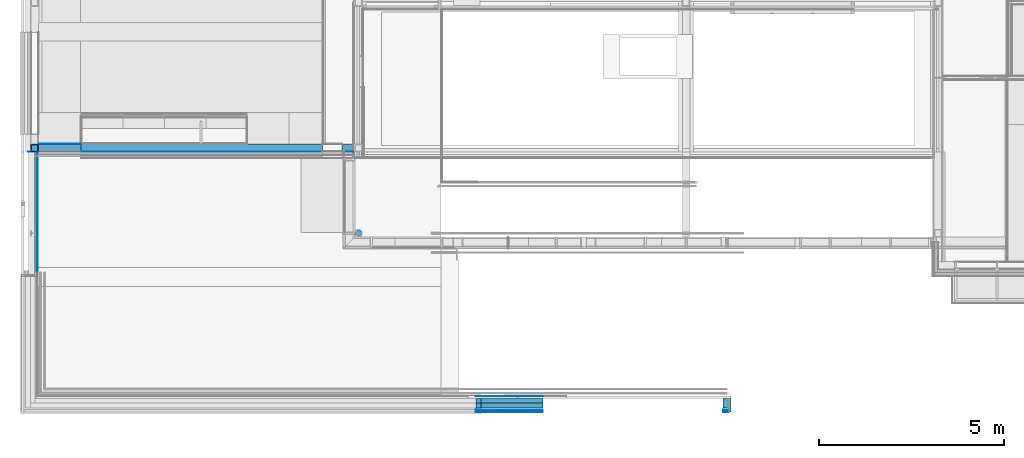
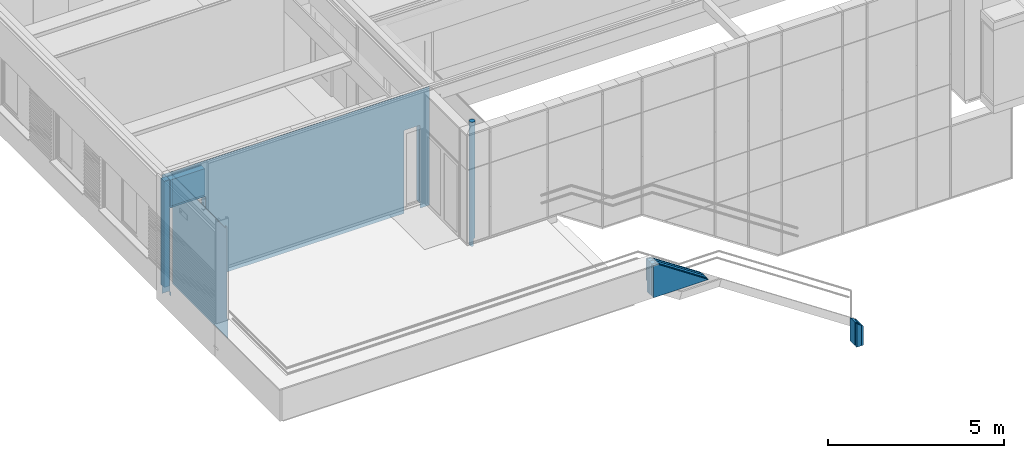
# One storey, part 54 of 137: 16 building element parts, 3 openings, 7 elements without a shape of their own.
"""IFC2X3 building model written with IfcOpenShell, lengths in millimetres."""

from ifc_helpers import new_model, entity, si_unit, converted_unit, derived_unit, money_unit, direction, frame, origin_with_axes, place, context, subcontext, project, spatial, faceted_brep, material, type_object, element, fill, aggregate, save


model = new_model("IFC2X3")

# Units and contexts
model_context = context("Model", 3, precision=0.01, world=origin_with_axes(), true_north=direction((0.0, 1.0)))
body_context = subcontext(model_context, "Body", "Model", "MODEL_VIEW")
ifc_project = project(units=[si_unit("LENGTHUNIT", "METRE", prefix="MILLI"), si_unit("AREAUNIT", "SQUARE_METRE"), si_unit("VOLUMEUNIT", "CUBIC_METRE"), converted_unit("PLANEANGLEUNIT", "DEGREE", entity("IfcPlaneAngleMeasure", 0.0174532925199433), si_unit("PLANEANGLEUNIT", "RADIAN"), dimensions=[0, 0, 0, 0, 0, 0, 0]), money_unit("EUR"), converted_unit("TIMEUNIT", "Year", entity("IfcTimeMeasure", 31556926.0), si_unit("TIMEUNIT", "SECOND"), dimensions=[0, 0, 1, 0, 0, 0, 0]), si_unit("MASSUNIT", "GRAM", prefix="KILO"), si_unit("THERMODYNAMICTEMPERATUREUNIT", "DEGREE_CELSIUS"), si_unit("LUMINOUSINTENSITYUNIT", "LUMEN"), si_unit("ENERGYUNIT", "JOULE", prefix="MEGA"), derived_unit("THERMALCONDUCTANCEUNIT", [(si_unit("POWERUNIT", "WATT"), 1), (si_unit("LENGTHUNIT", "METRE"), -1), (si_unit("THERMODYNAMICTEMPERATUREUNIT", "KELVIN"), -1)]), derived_unit("SPECIFICHEATCAPACITYUNIT", [(si_unit("ENERGYUNIT", "JOULE"), 1), (si_unit("MASSUNIT", "GRAM", prefix="KILO"), -1), (si_unit("THERMODYNAMICTEMPERATUREUNIT", "KELVIN"), -1)]), derived_unit("MASSDENSITYUNIT", [(si_unit("MASSUNIT", "GRAM", prefix="KILO"), 1), (si_unit("VOLUMEUNIT", "CUBIC_METRE"), -1)])], contexts=[model_context])

# Site, building, storey
site_placement = place(None, origin_with_axes())
site = spatial("IfcSite", under=ifc_project, at=site_placement, Name="Site", CompositionType="ELEMENT")
building_placement = place(site_placement, origin_with_axes())
building = spatial("IfcBuilding", under=site, at=building_placement, Name="Naam gebouw", CompositionType="ELEMENT")
storey_placement = place(building_placement, frame((0.0, 0.0, 3960.0), z_axis=(0.0, 0.0, 1.0), x_axis=(1.0, 0.0, 0.0)))
storey = spatial("IfcBuildingStorey", under=building, at=storey_placement, Name="1e verdieping", CompositionType="ELEMENT", Elevation=3960.0)

# Wall, openings, building element parts
wall_type_1 = type_object("IfcWallType", Name="21 STO Buitengevelisolatie 160 390", PredefinedType="NOTDEFINED")
wall_1_placement = place(storey_placement, frame((0.0, 6779.999999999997, -270.0000000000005), z_axis=(0.0, 0.0, 1.0), x_axis=(0.9999999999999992, -4.022914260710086e-08, 0.0)))
wall_1 = element("IfcWall", 1, at=wall_1_placement, inside=storey, type_object=wall_type_1, Name="21_Wand-x")
opening_1_placement = place(wall_1_placement, frame((773.9999992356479, 0.0, 260.0000000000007), z_axis=(0.0, 0.0, 1.0), x_axis=(1.0, 0.0, 0.0)))
element("IfcOpeningElement", 2, at=opening_1_placement, cuts=wall_1, Name="_Merk BH", context=body_context, shape_type="Brep", body=[
    faceted_brep([(-579.9999992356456, 7.80445397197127e-06, 2620.0), (579.9999850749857, 5.447025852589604e-05, 2620.0), (579.9999850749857, 5.447025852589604e-05, 3620.0), (-579.9999992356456, 7.80445397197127e-06, 3620.0), (-579.9999963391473, -71.9999921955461, 2620.0), (579.9999879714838, -71.99994552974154, 2620.0), (579.9999850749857, 5.447025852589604e-05, -600.0000000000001), (579.9999850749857, 5.447025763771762e-05, -1600.0), (579.99997642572, 215.000054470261, -1600.0), (579.99997642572, 215.0000544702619, 3620.0), (-580.0000078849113, 215.0000078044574, 3620.0), (-579.9999992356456, 7.80445397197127e-06, -600.0000000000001), (-580.0000078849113, 215.0000078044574, -1600.0), (-579.9999992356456, 7.80445397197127e-06, -1600.0), (-579.9999963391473, -71.9999921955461, -600.0000000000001), (589.9999879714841, -71.99994512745, -799.9999999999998), (-589.9999963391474, -71.99999259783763, -799.9999999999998), (-589.9999963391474, -71.99999259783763, 3970.0), (589.9999879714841, -71.99994512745, 3970.0), (579.9999879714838, -71.99994552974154, -600.0000000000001), (589.9999921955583, -177.0002956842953, -799.9999999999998), (-589.9999921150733, -177.0003431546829, -799.9999999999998), (-589.9999921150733, -177.0003431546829, 3970.0), (589.9999921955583, -177.0002956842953, 3970.0)], [[[0, 1, 2, 3]], [[1, 0, 4, 5]], [[1, 6, 7, 8, 9, 2]], [[3, 2, 9, 10]], [[11, 0, 3, 10, 12, 13]], [[0, 11, 14, 4]], [[15, 16, 17, 18], [19, 5, 4, 14]], [[6, 1, 5, 19]], [[6, 11, 13, 7]], [[7, 13, 12, 8]], [[9, 8, 12, 10]], [[11, 6, 19, 14]], [[16, 15, 20, 21]], [[17, 16, 21, 22]], [[18, 17, 22, 23]], [[15, 18, 23, 20]], [[22, 21, 20, 23]]]),
])
opening_2_placement = place(wall_1_placement, frame((8143.749993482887, 0.0, 260.0000000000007), z_axis=(0.0, 0.0, 1.0), x_axis=(1.0, 0.0, 0.0)))
element("IfcOpeningElement", 3, at=opening_2_placement, cuts=wall_1, Name="_Merk BJ", context=body_context, shape_type="Brep", body=[
    faceted_brep([(-266.2500049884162, 0.000316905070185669, 2620.0), (266.2499908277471, 0.0003383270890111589, 2620.0), (266.2499908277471, 0.0003383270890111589, 3620.0), (-266.2500049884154, 0.000316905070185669, 3620.0), (-266.2500020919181, -71.99968309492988, 2620.0), (266.2499937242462, -71.99966167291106, 2620.0), (266.2499908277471, 0.0003383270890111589, -600.0000000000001), (266.2499908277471, 0.0003383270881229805, -1600.0), (266.2499821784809, 215.000338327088, -1600.0), (266.2499821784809, 215.0003383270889, 3620.0), (-266.2500136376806, 215.00031690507, 3620.0), (-266.2500049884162, 0.000316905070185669, -600.0000000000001), (-266.2500136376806, 215.0003169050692, -1600.0), (-266.2500049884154, 0.0003169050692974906, -1600.0), (-266.2500020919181, -71.99968309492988, -600.0000000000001), (-276.2500020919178, -71.99968349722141, 2620.0), (-276.2499978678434, -177.0000340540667, 2620.0), (309.2499979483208, -177.0000104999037, 2620.0), (309.2499937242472, -71.99965994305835, 2620.0), (266.2499937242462, -71.99966167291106, -600.0000000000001), (309.2499937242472, -71.99965994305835, -799.9999999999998), (-276.2500020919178, -71.99968349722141, -799.9999999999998), (-276.2499978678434, -177.0000340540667, -799.9999999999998), (309.2499979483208, -177.0000104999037, -799.9999999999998)], [[[0, 1, 2, 3]], [[1, 0, 4, 5]], [[1, 6, 7, 8, 9, 2]], [[3, 2, 9, 10]], [[11, 0, 3, 10, 12, 13]], [[0, 11, 14, 4]], [[5, 4, 15, 16, 17, 18]], [[6, 1, 5, 19]], [[6, 11, 13, 7]], [[7, 13, 12, 8]], [[9, 8, 12, 10]], [[11, 6, 19, 14]], [[19, 5, 18, 20, 21, 15, 4, 14]], [[15, 21, 22, 16]], [[16, 22, 23, 17]], [[20, 18, 17, 23]], [[21, 20, 23, 22]]]),
])
ifc_material_1 = material(Name="STO lijmlaag")
building_element_part_1_placement = place(wall_1_placement, origin_with_axes())
building_element_part_1 = element("IfcBuildingElementPart", 4, at=building_element_part_1_placement, material=ifc_material_1, Name="STO lijmlaag", context=body_context, shape_type="Brep", body=[
    faceted_brep([(131.9999969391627, -0.0002181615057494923, 4125.000048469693), (8714.002391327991, 0.001039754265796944, 4125.000048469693), (8714.002391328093, 0.0003505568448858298, 0.0), (8409.999984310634, 0.0003383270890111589, 0.0), (8409.999984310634, 0.0003383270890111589, 2880.000000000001), (7877.499988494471, 0.000316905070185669, 2880.000000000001), (7877.499988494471, 0.000316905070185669, 0.0), (1353.999984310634, 5.447025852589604e-05, 0.0), (1353.999984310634, 5.447025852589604e-05, 2880.000000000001), (194.0000000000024, 7.80445397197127e-06, 2880.000000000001), (194.0000000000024, 7.80445397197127e-06, 0.0), (-63.99999999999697, 8.60903792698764e-06, 0.0), (-63.99999999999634, -7.241244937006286e-06, 4130.000000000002), (131.9999969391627, -0.0002181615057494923, 4130.000000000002), (8714.00239148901, -3.999649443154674, 4125.000048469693), (131.9999974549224, -3.999994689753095, 4125.000048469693), (8714.00239148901, -3.999649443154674, 0.0), (8409.999984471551, -3.999661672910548, 0.0), (8409.999984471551, -3.999661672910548, 2880.000000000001), (7877.499988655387, -3.999683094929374, 2880.000000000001), (7877.499988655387, -3.999683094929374, 0.0), (1353.99998447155, -3.999945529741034, 0.0), (1353.99998447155, -3.999945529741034, 2880.000000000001), (194.000000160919, -3.999992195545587, 2880.000000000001), (194.000000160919, -3.999992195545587, 0.0), (-63.99999983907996, -4.000002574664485, 0.0), (-63.99999983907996, -4.000002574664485, 4130.000000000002), (131.9999974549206, -3.999994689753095, 4130.000000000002)], [[[0, 1, 2, 3, 4, 5, 6, 7, 8, 9, 10, 11, 12, 13]], [[14, 1, 0, 15]], [[1, 14, 16, 2]], [[16, 17, 3, 2]], [[18, 4, 3, 17]], [[19, 5, 4, 18]], [[20, 6, 5, 19]], [[7, 6, 20, 21]], [[8, 7, 21, 22]], [[9, 8, 22, 23]], [[10, 9, 23, 24]], [[10, 24, 25, 11]], [[25, 26, 12, 11]], [[27, 13, 12, 26]], [[15, 0, 13, 27]], [[15, 27, 26, 25, 24, 23, 22, 21, 20, 19, 18, 17, 16, 14]]]),
])
ifc_material_2 = material(Name="Steen - Kalkzandsteen C")
building_element_part_2_placement = place(wall_1_placement, origin_with_axes())
building_element_part_2 = element("IfcBuildingElementPart", 5, at=building_element_part_2_placement, material=ifc_material_2, Name="Steen - Kalkzandsteen C", context=body_context, shape_type="Brep", body=[
    faceted_brep([(7877.499988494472, 0.000316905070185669, 3870.000000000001), (7877.499979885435, 214.0003169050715, 3870.000000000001), (1353.999975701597, 214.0000544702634, 3870.000000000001), (1353.999984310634, 5.447025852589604e-05, 3870.000000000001), (7877.499979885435, 214.0003169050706, 169.9999999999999), (7877.499988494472, 0.0003169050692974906, 169.9999999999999), (1353.999975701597, 214.0000544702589, 169.9999999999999), (1353.999984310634, 5.447025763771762e-05, 169.9999999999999)], [[[0, 1, 2, 3]], [[4, 1, 0, 5]], [[1, 4, 6, 2]], [[2, 6, 7, 3]], [[5, 0, 3, 7]], [[4, 5, 7, 6]]]),
    faceted_brep([(8409.999975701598, 214.0003383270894, 169.9999999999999), (8409.999975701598, 214.0003383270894, 3870.000000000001), (8714.002382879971, 214.0003505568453, 3870.000000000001), (8714.002382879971, 214.0003505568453, 3865.000002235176), (8649.997782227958, 214.0003479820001, 3865.000002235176), (8649.997782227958, 214.0003479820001, 3853.000002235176), (8714.002382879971, 214.0003505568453, 3853.000002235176), (8714.002382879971, 214.0003505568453, 169.9999999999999), (8409.999984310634, 0.0003383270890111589, 3870.000000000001), (8409.999984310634, 0.0003383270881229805, 169.9999999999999), (8714.00239148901, 0.0003505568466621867, 3870.000000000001), (8714.002391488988, 0.0003125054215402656, 3865.000002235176), (8649.997663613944, 0.000347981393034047, 3865.000002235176), (8649.997663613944, 0.000347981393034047, 3853.000002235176), (8714.002391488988, 0.0003125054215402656, 3853.000002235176), (8714.00239148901, 0.0003505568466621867, 169.9999999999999)], [[[0, 1, 2, 3, 4, 5, 6, 7]], [[8, 1, 0, 9]], [[1, 8, 10, 2]], [[2, 10, 11, 3]], [[11, 12, 4, 3]], [[12, 13, 5, 4]], [[5, 13, 14, 6]], [[15, 7, 6, 14]], [[9, 0, 7, 15]], [[8, 9, 15, 14, 13, 12, 11, 10]]]),
])
aggregate(wall_1, [building_element_part_1, building_element_part_2])

# Wall, building element parts
wall_type_2 = type_object("IfcWallType", Name="21 Buitenwand spouwmuur overstek 434", PredefinedType="NOTDEFINED")
wall_2_placement = place(storey_placement, frame((0.0, 3453.999976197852, -390.0000000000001), z_axis=(0.0, 0.0, 1.0), x_axis=(0.0, 1.0, 0.0)))
wall_2 = element("IfcWall", 6, at=wall_2_placement, inside=storey, type_object=wall_type_2, Name="21_Wand-x")
ifc_material_3 = material(Name="STO weefsellaag")
building_element_part_3_placement = place(wall_2_placement, origin_with_axes())
building_element_part_3 = element("IfcBuildingElementPart", 7, at=building_element_part_3_placement, material=ifc_material_3, Name="STO weefsellaag", context=body_context, shape_type="Brep", body=[
    faceted_brep([(0.0, -181.00000698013, 480.0), (3158.000023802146, -181.0000000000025, 480.0), (3158.000023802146, -181.0000000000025, 4245.000048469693), (145.9978429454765, -181.0000167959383, 4245.000048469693), (145.9978429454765, -181.0000163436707, 4338.000000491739), (57.999999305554, -181.0000167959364, 4338.000000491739), (57.999999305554, -181.0000167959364, 1155.000000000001), (0.0, -181.0000167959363, 1155.000000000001), (3158.000023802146, -176.0000000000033, 480.0), (0.0, -176.0000075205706, 480.0), (3158.000023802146, -176.0000000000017, 4245.000048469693), (145.9978424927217, -176.000018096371, 4245.000048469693), (145.9978424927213, -176.0000176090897, 4338.000000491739), (57.999999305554, -176.0000180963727, 4338.000000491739), (57.999999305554, -176.0000180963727, 1155.000000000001), (0.0, -176.0000180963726, 1155.000000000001)], [[[0, 1, 2, 3, 4, 5, 6, 7]], [[8, 1, 0, 9]], [[1, 8, 10, 2]], [[11, 3, 2, 10]], [[4, 3, 11, 12]], [[5, 4, 12, 13]], [[6, 5, 13, 14]], [[7, 6, 14, 15]], [[9, 0, 7, 15]], [[8, 9, 15, 14, 13, 12, 11, 10]]]),
    faceted_brep([(3249.000015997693, -176.0000000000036, 120.0000000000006), (3249.000015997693, -181.0000000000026, 120.0000000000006), (3326.000034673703, -181.0000000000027, 120.0000000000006), (3326.000034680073, -176.0000000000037, 120.0000000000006), (3249.000015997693, -181.0000000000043, 0.0), (3249.000015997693, -176.0000000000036, 0.0), (3326.000023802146, -181.0000000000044, 0.0), (3326.000023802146, -176.0000000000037, 0.0)], [[[0, 1, 2, 3]], [[4, 1, 0, 5]], [[1, 4, 6, 2]], [[2, 6, 7, 3]], [[5, 0, 3, 7]], [[4, 5, 7, 6]]]),
])
ifc_material_4 = material(Name="STO pleisterlaag")
building_element_part_4_placement = place(wall_2_placement, origin_with_axes())
building_element_part_4 = element("IfcBuildingElementPart", 8, at=building_element_part_4_placement, material=ifc_material_4, Name="STO pleisterlaag", context=body_context, shape_type="Brep", body=[
    faceted_brep([(0.0, -183.9999969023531, 480.0), (3153.000023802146, -183.9999969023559, 480.0), (3153.000023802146, -184.0000000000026, 4245.000048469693), (145.9978432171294, -184.0000167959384, 4245.000048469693), (145.9978432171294, -184.0000163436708, 4338.000000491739), (57.99999875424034, -184.0000167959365, 4338.000000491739), (57.99999875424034, -184.0000167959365, 1155.000000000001), (0.0, -184.0000167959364, 1155.000000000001), (3153.000023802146, -181.0000000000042, 480.0), (0.0, -181.0000059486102, 480.0), (3153.000023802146, -181.0000000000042, 4245.000048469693), (145.9978429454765, -181.0000143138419, 4245.000048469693), (145.9978429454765, -181.0000139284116, 4338.000000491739), (57.99999875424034, -181.0000143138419, 4338.000000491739), (57.99999875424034, -181.0000143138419, 1155.000000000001), (0.0, -181.0000143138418, 1155.000000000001)], [[[0, 1, 2, 3, 4, 5, 6, 7]], [[8, 1, 0, 9]], [[1, 8, 10, 2]], [[11, 3, 2, 10]], [[4, 3, 11, 12]], [[5, 4, 12, 13]], [[6, 5, 13, 14]], [[7, 6, 14, 15]], [[9, 0, 7, 15]], [[8, 9, 15, 14, 13, 12, 11, 10]]]),
    faceted_brep([(3249.000015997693, -181.0000000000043, 120.0000000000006), (3249.000015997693, -183.9999969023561, 120.0000000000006), (3326.000034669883, -184.0000000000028, 120.0000000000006), (3326.000034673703, -181.0000000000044, 120.0000000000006), (3249.000015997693, -183.9999969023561, 0.0), (3249.000015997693, -181.0000000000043, 0.0), (3326.000023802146, -184.0000000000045, 0.0), (3326.000023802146, -181.0000000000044, 0.0)], [[[0, 1, 2, 3]], [[4, 1, 0, 5]], [[1, 4, 6, 2]], [[2, 6, 7, 3]], [[5, 0, 3, 7]], [[4, 5, 7, 6]]]),
])
aggregate(wall_2, [building_element_part_3, building_element_part_4])

# Column, building element part
column_type_1 = type_object("IfcColumnType", Name="193.7X12.5 194 x 194", PredefinedType="COLUMN")
column_1_placement = place(storey_placement, frame((8850.000000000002, 4579.999999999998, -360.0000000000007), z_axis=(0.0, 0.0, 1.0), x_axis=(1.0, 0.0, 0.0)))
column_1 = element("IfcColumn", 9, at=column_1_placement, inside=storey, type_object=column_type_1, Name="28_Kolom-x", ObjectType="COLUMN")
ifc_material_5 = material(Name="Beton gewapend C")
building_element_part_5_placement = place(column_1_placement, origin_with_axes())
building_element_part_5 = element("IfcBuildingElementPart", 10, at=building_element_part_5_placement, material=ifc_material_5, Name="Beton gewapend C", context=body_context, shape_type="Brep", body=[
    faceted_brep([(80.93323232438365, -23.76414116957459, 260.0000000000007), (84.35000000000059, 0.0, 260.0000000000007), (84.35000000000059, 0.0, 4310.000000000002), (80.93323232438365, -23.76414116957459, 4310.000000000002), (80.93323232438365, 23.76414116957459, 260.0000000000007), (70.95973549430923, -45.6030529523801, 260.0000000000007), (55.23750290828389, -63.74747659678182, 260.0000000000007), (35.0402563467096, -76.72745880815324, 260.0000000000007), (12.00425660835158, -83.49143862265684, 260.0000000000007), (7.376082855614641e-05, -83.49143862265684, 260.0000000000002), (7.376082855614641e-05, 83.49143862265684, 260.0000000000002), (12.00425660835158, 83.49143862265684, 260.0000000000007), (35.0402563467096, 76.72745880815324, 260.0000000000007), (55.23750290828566, 63.74747659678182, 260.0000000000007), (70.95973549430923, 45.60305295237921, 260.0000000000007), (80.93323232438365, 23.76414116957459, 4310.000000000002), (70.95973549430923, 45.60305295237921, 4310.000000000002), (55.23750290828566, 63.74747659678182, 4310.000000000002), (35.0402563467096, 76.72745880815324, 4310.000000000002), (12.00425660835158, 83.49143862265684, 4310.000000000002), (-12.00425660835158, 83.49143862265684, 4310.000000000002), (-35.0402563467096, 76.72745880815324, 4310.000000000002), (-55.23750290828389, 63.74747659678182, 4310.000000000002), (-70.95973549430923, 45.6030529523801, 4310.000000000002), (-80.93323232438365, 23.76414116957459, 4310.000000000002), (-84.35000000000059, 0.0, 4310.000000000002), (-80.93323232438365, -23.76414116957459, 4310.000000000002), (-70.95973549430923, -45.60305295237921, 4310.000000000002), (-55.23750290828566, -63.74747659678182, 4310.000000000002), (-35.0402563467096, -76.72745880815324, 4310.000000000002), (-12.00425660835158, -83.49143862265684, 4310.000000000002), (12.00425660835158, -83.49143862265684, 4310.000000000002), (35.0402563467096, -76.72745880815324, 4310.000000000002), (55.23750290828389, -63.74747659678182, 4310.000000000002), (70.95973549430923, -45.6030529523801, 4310.000000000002), (-12.00425660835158, -83.49143862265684, 0.0), (7.376082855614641e-05, -83.49143862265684, 0.0), (7.376082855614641e-05, 83.49143862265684, 0.0), (-12.00425660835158, 83.49143862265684, 0.0), (-35.0402563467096, 76.72745880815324, 0.0), (-55.23750290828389, 63.74747659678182, 0.0), (-70.95973549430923, 45.6030529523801, 0.0), (-80.93323232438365, 23.76414116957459, 0.0), (-84.35000000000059, 0.0, 0.0), (-80.93323232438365, -23.76414116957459, 0.0), (-70.95973549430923, -45.60305295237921, 0.0), (-55.23750290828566, -63.74747659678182, 0.0), (-35.0402563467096, -76.72745880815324, 0.0)], [[[0, 1, 2, 3]], [[4, 1, 0, 5, 6, 7, 8, 9, 10, 11, 12, 13, 14]], [[1, 4, 15, 2]], [[3, 2, 15, 16, 17, 18, 19, 20, 21, 22, 23, 24, 25, 26, 27, 28, 29, 30, 31, 32, 33, 34]], [[5, 0, 3, 34]], [[6, 5, 34, 33]], [[7, 6, 33, 32]], [[8, 7, 32, 31]], [[9, 8, 31, 30, 35, 36]], [[37, 10, 9, 36]], [[10, 37, 38, 20, 19, 11]], [[12, 11, 19, 18]], [[13, 12, 18, 17]], [[14, 13, 17, 16]], [[4, 14, 16, 15]], [[20, 38, 39, 21]], [[21, 39, 40, 22]], [[22, 40, 41, 23]], [[23, 41, 42, 24]], [[24, 42, 43, 25]], [[25, 43, 44, 26]], [[26, 44, 45, 27]], [[27, 45, 46, 28]], [[28, 46, 47, 29]], [[29, 47, 35, 30]], [[37, 36, 35, 47, 46, 45, 44, 43, 42, 41, 40, 39, 38]]]),
])
aggregate(column_1, [building_element_part_5])

# Column, building element parts
column_type_2 = type_object("IfcColumnType", Name="200X200X10 200 x 200", PredefinedType="COLUMN")
column_2_placement = place(storey_placement, frame((99.99999999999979, 6879.999999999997, -100.0000000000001), z_axis=(0.0, 0.0, 1.0), x_axis=(1.0, 0.0, 0.0)))
column_2 = element("IfcColumn", 11, at=column_2_placement, inside=storey, type_object=column_type_2, Name="28_Kolom-x", ObjectType="COLUMN")
building_element_part_6_placement = place(column_2_placement, origin_with_axes())
building_element_part_6 = element("IfcBuildingElementPart", 12, at=building_element_part_6_placement, material=ifc_material_5, Name="Beton gewapend C", context=body_context, shape_type="Brep", body=[
    faceted_brep([(-90.0, 89.99999999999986, 3685.000001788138), (89.99999999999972, 89.99999999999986, 3685.000001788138), (89.99999999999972, 89.99999999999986, 0.0), (-90.0, 89.99999999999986, 0.0), (89.99999999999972, -89.99999999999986, 3685.000001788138), (-90.0, -89.99999999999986, 3685.000001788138), (89.99999999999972, -89.99999999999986, 0.0), (-90.0, -89.99999999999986, 0.0)], [[[0, 1, 2, 3]], [[4, 1, 0, 5]], [[1, 4, 6, 2]], [[2, 6, 7, 3]], [[5, 0, 3, 7]], [[4, 5, 7, 6]]]),
    faceted_brep([(89.99999999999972, -89.99999999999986, 3695.000001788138), (89.99999999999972, 89.99999999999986, 3695.000001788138), (89.99999999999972, 89.99999999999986, 3699.999999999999), (89.99999999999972, -89.99999999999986, 3699.999999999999), (-90.0, 89.99999999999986, 3695.000001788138), (-90.0, -89.99999999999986, 3695.000001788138), (-90.0, 89.99999999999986, 3699.999999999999), (-90.0, -89.99999999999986, 3699.999999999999)], [[[0, 1, 2, 3]], [[4, 1, 0, 5]], [[1, 4, 6, 2]], [[2, 6, 7, 3]], [[5, 0, 3, 7]], [[4, 5, 7, 6]]]),
])
ifc_material_6 = material(Name="Metaal - Staal C")
building_element_part_7_placement = place(column_2_placement, origin_with_axes())
building_element_part_7 = element("IfcBuildingElementPart", 13, at=building_element_part_7_placement, material=ifc_material_6, Name="Metaal - Staal C", context=body_context, shape_type="Brep", body=[
    faceted_brep([(-100.0, -99.99999999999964, 0.0), (100.0, -99.99999999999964, 0.0), (100.0, -99.99999999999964, 3699.999999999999), (-100.0, -99.99999999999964, 3699.999999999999), (-100.0, 99.99999999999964, 0.0), (100.0, 99.99999999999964, 0.0), (-90.00000000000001, -89.99999999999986, 0.0), (90.0, -89.99999999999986, 0.0), (90.0, 89.99999999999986, 0.0), (-90.00000000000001, 89.99999999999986, 0.0), (100.0, 99.99999999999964, 3699.999999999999), (-100.0, 99.99999999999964, 3699.999999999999), (-90.00000000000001, -89.99999999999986, 3699.999999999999), (-90.00000000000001, 89.99999999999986, 3699.999999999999), (90.0, 89.99999999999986, 3699.999999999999), (90.0, -89.99999999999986, 3699.999999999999)], [[[0, 1, 2, 3]], [[0, 4, 5, 1], [6, 7, 8, 9]], [[1, 5, 10, 2]], [[3, 2, 10, 11], [12, 13, 14, 15]], [[4, 0, 3, 11]], [[5, 4, 11, 10]], [[7, 6, 12, 15]], [[8, 7, 15, 14]], [[9, 8, 14, 13]], [[6, 9, 13, 12]]]),
])
aggregate(column_2, [building_element_part_6, building_element_part_7])

# Walls, opening, building element parts
wall_type_3 = type_object("IfcWallType", Name="21 Borstwering metselwerk 434", PredefinedType="NOTDEFINED")
wall_3_placement = place(storey_placement, frame((12019.41611286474, -0.0002238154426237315, -4445.0), z_axis=(0.0, 0.0, 1.0), x_axis=(1.0, 0.0, 0.0)))
wall_3 = element("IfcWall", 14, at=wall_3_placement, inside=storey, type_object=wall_type_3, Name="21_Wand-x")
opening_3_placement = place(wall_3_placement, frame((6900.000000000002, 0.0, 0.0), z_axis=(0.0, 0.0, 1.0), x_axis=(1.0, 0.0, 0.0)))
opening_3 = element("IfcOpeningElement", 15, at=opening_3_placement, cuts=wall_3, Name="_Wandeinde-x", context=body_context, shape_type="Brep", body=[
    faceted_brep([(-105.0000000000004, -145.0, 5170.000000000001), (-105.0000000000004, -145.0, 0.0), (-105.0000000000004, -180.0, 0.0), (-105.0000000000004, -180.0, 5170.000000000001), (-250.0, -145.0, 5170.000000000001), (-250.0, -145.0, 0.0), (-250.0, 184.0, 0.0), (0.0, 184.0, 0.0), (0.0, -250.0, 0.0), (-70.00000000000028, -250.0, 0.0), (-70.00000000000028, -180.0, 0.0), (-70.00000000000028, -180.0, 5170.000000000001), (-70.00000000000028, -250.0, 5170.000000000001), (0.0, -250.0, 5170.000000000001), (0.0, 184.0, 5170.000000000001), (-250.0, 184.0, 5170.000000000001)], [[[0, 1, 2, 3]], [[1, 0, 4, 5]], [[6, 7, 8, 9, 10, 2, 1, 5]], [[10, 11, 3, 2]], [[0, 3, 11, 12, 13, 14, 15, 4]], [[4, 15, 6, 5]], [[14, 7, 6, 15]], [[14, 13, 8, 7]], [[13, 12, 9, 8]], [[11, 10, 9, 12]]]),
])
ifc_material_7 = material(Name="Eternit wit")
building_element_part_8_placement = place(wall_3_placement, origin_with_axes())
building_element_part_8 = element("IfcBuildingElementPart", 16, at=building_element_part_8_placement, material=ifc_material_7, Name="Eternit wit", context=body_context, shape_type="Brep", body=[
    faceted_brep([(520.5839019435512, 176.0000000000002, 4055.0), (520.5839019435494, 184.0002238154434, 4054.999999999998), (1815.583848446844, 183.9999999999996, 4055.0), (1815.583848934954, 176.0000000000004, 4055.0), (0.0, 184.0002238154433, 4402.055891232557), (0.0, 176.0000000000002, 4402.055891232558), (0.0, 184.0000000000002, 5170.000000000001), (143.0838411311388, 184.0000000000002, 5169.999999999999), (143.0838416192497, 176.0000000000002, 5169.999999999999), (0.0, 176.0000000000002, 5170.000000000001)], [[[0, 1, 2, 3]], [[4, 1, 0, 5]], [[1, 4, 6, 7, 2]], [[8, 3, 2, 7]], [[5, 0, 3, 8, 9]], [[4, 5, 9, 6]], [[9, 8, 7, 6]]]),
])
ifc_material_8 = material(Name="Isolatie - Kunststof hard")
building_element_part_9_placement = place(wall_3_placement, origin_with_axes())
building_element_part_9 = element("IfcBuildingElementPart", 17, at=building_element_part_9_placement, material=ifc_material_8, Name="Isolatie - Kunststof hard", context=body_context, shape_type="Brep", body=[
    faceted_brep([(143.0838450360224, 120.0000000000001, 5169.999999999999), (1815.583852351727, 120.0000000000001, 4055.0), (0.0, 120.0000000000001, 4055.0), (0.0, 120.0000000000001, 5170.000000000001), (1815.583859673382, 0.0, 4055.0), (143.0838523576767, 0.0, 5169.999999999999), (0.0, 0.0001790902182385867, 4055.0), (0.0, 0.0, 5170.000000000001)], [[[0, 1, 2, 3]], [[4, 1, 0, 5]], [[1, 4, 6, 2]], [[3, 2, 6, 7]], [[5, 0, 3, 7]], [[4, 5, 7, 6]]]),
])
ifc_material_9 = material(Name="Isolatie - Steenwol zacht")
building_element_part_10_placement = place(wall_3_placement, origin_with_axes())
building_element_part_10 = element("IfcBuildingElementPart", 18, at=building_element_part_10_placement, material=ifc_material_9, Name="Isolatie - Steenwol zacht", context=body_context, shape_type="Brep", body=[
    faceted_brep([(143.0838523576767, 0.0, 5169.999999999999), (1815.583859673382, 0.0, 4055.0), (0.0, 0.0, 4055.0), (0.0, 0.0, 5170.000000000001), (1815.583868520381, -145.0, 4055.0), (143.0838612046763, -144.9999999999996, 5170.0), (0.0, -144.9999999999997, 4055.0), (0.0, -144.9999999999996, 5170.000000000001)], [[[0, 1, 2, 3]], [[4, 1, 0, 5]], [[1, 4, 6, 2]], [[3, 2, 6, 7]], [[5, 0, 3, 7]], [[4, 5, 7, 6]]]),
])
ifc_material_10 = material(Name="Steen - Baksteen")
building_element_part_11_placement = place(wall_3_placement, origin_with_axes())
building_element_part_11 = element("IfcBuildingElementPart", 19, at=building_element_part_11_placement, material=ifc_material_10, Name="Steen - Baksteen", context=body_context, shape_type="Brep", body=[
    faceted_brep([(143.0838633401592, -179.9999999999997, 5170.0), (1815.583870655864, -179.9999999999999, 4055.0), (0.0, -180.0000000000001, 4055.0), (0.0, -179.9999999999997, 5170.000000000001), (1815.58387492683, -249.9999999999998, 4055.0), (143.0838676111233, -249.9999999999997, 5170.0), (0.0, -249.9999999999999, 4055.0), (0.0, -249.9999999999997, 5170.000000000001)], [[[0, 1, 2, 3]], [[4, 1, 0, 5]], [[1, 4, 6, 2]], [[3, 2, 6, 7]], [[5, 0, 3, 7]], [[4, 5, 7, 6]]]),
    faceted_brep([(6680.583311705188, -179.9999999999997, 811.6670534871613), (6830.000000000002, -179.9999999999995, 712.0559283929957), (6830.000000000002, -179.9999999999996, 0.0), (6680.583311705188, -179.9999999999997, 0.0), (6830.000000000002, -250.0, 712.0559312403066), (6680.583311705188, -249.9999999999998, 811.6670563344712), (6830.000000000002, -250.0, 0.0), (6680.583311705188, -249.9999999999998, 0.0)], [[[0, 1, 2, 3]], [[4, 1, 0, 5]], [[1, 4, 6, 2]], [[6, 7, 3, 2]], [[5, 0, 3, 7]], [[4, 5, 7, 6]]]),
])
aggregate(wall_3, [building_element_part_8, building_element_part_9, building_element_part_10, building_element_part_11])
wall_type_4 = type_object("IfcWallType", Name="Wandeinde 2 26", PredefinedType="NOTDEFINED")
wall_4_placement = place(opening_3_placement, frame((-125.0, 0.0, 0.0), z_axis=(0.0, 0.0, 1.0), x_axis=(1.0, 0.0, 0.0)))
wall_4 = element("IfcWall", 20, at=wall_4_placement, inside=storey, type_object=wall_type_4, Name="_Wandeinde-x")
fill(opening_3, wall_4)
building_element_part_12_placement = place(wall_4_placement, origin_with_axes())
building_element_part_12 = element("IfcBuildingElementPart", 21, at=building_element_part_12_placement, material=ifc_material_9, Name="Isolatie - Steenwol zacht", context=body_context, shape_type="Brep", body=[
    faceted_brep([(19.99999999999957, 122.0000415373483, 0.0), (19.99999891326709, 122.0000415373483, 735.3892477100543), (19.99999999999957, -145.0, 735.3892602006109), (19.99999999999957, -145.0, 0.0), (-94.41668938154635, 122.0000469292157, 811.6670395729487), (-94.41668829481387, 122.0000469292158, 0.0), (-94.41668829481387, -145.0, 811.6670520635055), (-94.41668829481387, -145.0, 0.0)], [[[0, 1, 2, 3]], [[4, 1, 0, 5]], [[1, 4, 6, 2]], [[3, 2, 6, 7]], [[5, 0, 3, 7]], [[4, 5, 7, 6]]]),
])
building_element_part_13_placement = place(wall_4_placement, origin_with_axes())
building_element_part_13 = element("IfcBuildingElementPart", 22, at=building_element_part_13_placement, material=ifc_material_10, Name="Steen - Baksteen", context=body_context, shape_type="Brep", body=[
    faceted_brep([(119.8586225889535, 184.0000368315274, 0.0), (119.8586225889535, 184.0000368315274, 668.8168341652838), (125.0, 184.0, 665.3892471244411), (125.0, 184.0, 0.0), (119.858619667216, 122.0000368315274, 668.8168341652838), (119.858619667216, 122.0000368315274, 0.0), (54.99999891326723, 122.0000398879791, 712.0559144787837), (54.99999999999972, -250.0, 712.0559312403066), (125.0, -250.0, 665.3892647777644), (125.0, -250.0, 0.0), (54.99999999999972, -250.0, 0.0), (54.99999999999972, 122.0000398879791, 0.0)], [[[0, 1, 2, 3]], [[4, 1, 0, 5]], [[4, 6, 7, 8, 2, 1]], [[3, 2, 8, 9]], [[5, 0, 3, 9, 10, 11]], [[6, 4, 5, 11]], [[6, 11, 10, 7]], [[9, 8, 7, 10]]]),
])
aggregate(wall_4, [building_element_part_12, building_element_part_13])

# Beam, building element parts
beam_type = type_object("IfcBeamType", Name="31 HSB boven kozijnen 214 x 1000", PredefinedType="BEAM")
beam_placement = place(storey_placement, frame((1353.999999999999, 6993.999661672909, 2600.000000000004), z_axis=(0.0, 0.0, 1.0), x_axis=(0.0, 1.0, 0.0)))
beam = element("IfcBeam", 23, at=beam_placement, inside=storey, type_object=beam_type, Name="28_Balk-x", ObjectType="BEAM")
ifc_material_11 = material(Name="Gipsplaat")
building_element_part_14_placement = place(beam_placement, origin_with_axes())
building_element_part_14 = element("IfcBuildingElementPart", 24, at=building_element_part_14_placement, material=ifc_material_11, Name="Gipsplaat", context=body_context, shape_type="Brep", body=[
    faceted_brep([(-11.99999661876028, 1139.999999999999, 0.0), (9.341709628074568e-06, 1139.999999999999, 0.0), (9.341709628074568e-06, 0.0, 0.0), (-11.99999661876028, 0.0, 0.0), (-11.99999661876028, 1139.999999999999, 999.9999999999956), (9.341709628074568e-06, 1139.999999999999, 999.9999999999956), (9.341709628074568e-06, 0.0, 999.9999999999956), (-11.99999661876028, 0.0, 999.9999999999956)], [[[0, 1, 2, 3]], [[0, 4, 5, 1]], [[1, 5, 6, 2]], [[3, 2, 6, 7]], [[4, 0, 3, 7]], [[5, 4, 7, 6]]]),
])
ifc_material_12 = material(Name="ALG - ISOLATIE")
building_element_part_15_placement = place(beam_placement, origin_with_axes())
building_element_part_15 = element("IfcBuildingElementPart", 25, at=building_element_part_15_placement, material=ifc_material_12, Name="ALG - ISOLATIE", context=body_context, shape_type="Brep", body=[
    faceted_brep([(-11.99999999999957, 1139.999999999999, 49.99999999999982), (-11.99999999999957, 1139.999999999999, 961.9999999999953), (-11.99999999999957, 0.0, 961.9999999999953), (-11.99999999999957, 0.0, 49.99999999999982), (-195.9999999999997, 1139.999999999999, 49.99999999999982), (-195.9999999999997, 1139.999999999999, 961.9999999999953), (-195.9999999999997, 0.0, 961.9999999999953), (-195.9999999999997, 0.0, 49.99999999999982)], [[[0, 1, 2, 3]], [[0, 4, 5, 1]], [[1, 5, 6, 2]], [[3, 2, 6, 7]], [[4, 0, 3, 7]], [[5, 4, 7, 6]]]),
])
building_element_part_16_placement = place(beam_placement, origin_with_axes())
building_element_part_16 = element("IfcBuildingElementPart", 26, at=building_element_part_16_placement, material=ifc_material_11, Name="Gipsplaat", context=body_context, shape_type="Brep", body=[
    faceted_brep([(-214.0000025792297, 1139.999999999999, 12.00000596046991), (-214.0000025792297, 1139.999999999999, 0.0), (-214.0000025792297, 0.0, 0.0), (-214.0000025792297, 0.0, 12.00000596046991), (-11.99999661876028, 1139.999999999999, 12.00000596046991), (-11.99999661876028, 1139.999999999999, 0.0), (-11.99999661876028, 0.0, 0.0), (-11.99999661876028, 0.0, 12.00000596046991)], [[[0, 1, 2, 3]], [[0, 4, 5, 1]], [[1, 5, 6, 2]], [[3, 2, 6, 7]], [[4, 0, 3, 7]], [[5, 4, 7, 6]]]),
])
aggregate(beam, [building_element_part_14, building_element_part_15, building_element_part_16])

save(model, "model.ifc")
